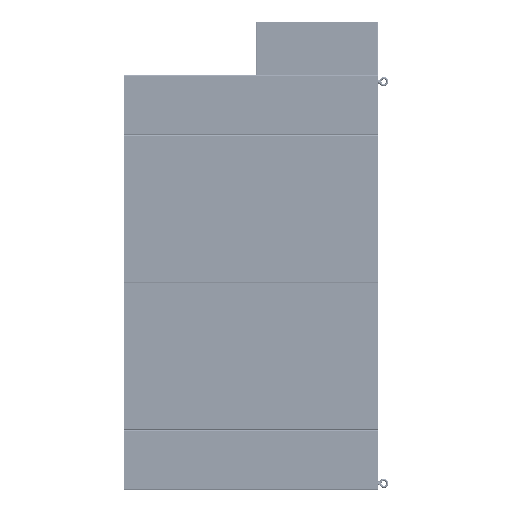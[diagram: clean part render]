
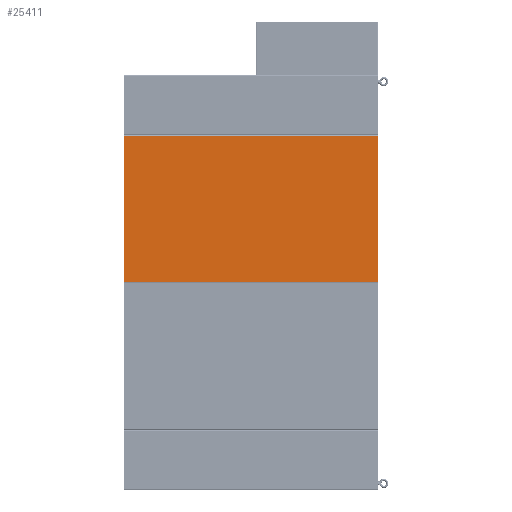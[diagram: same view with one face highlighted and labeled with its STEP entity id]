
A CAD part, left-side view. The second image highlights one B-rep face of the part: STEP entity #25411.
In plain terms, the highlighted planar face has unit normal (-1, 0, 0) as drawn and (0, 0, -1) by its records, which use the part's own axes.
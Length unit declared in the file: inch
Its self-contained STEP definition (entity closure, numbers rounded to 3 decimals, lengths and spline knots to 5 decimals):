
#24947=DIRECTION('',(0.,-1.,0.));
#24948=VECTOR('',#24947,71.75);
#24949=CARTESIAN_POINT('',(-20.625,0.,-0.125));
#24950=LINE('',#24949,#24948);
#24962=DIRECTION('',(1.,0.,0.));
#24963=VECTOR('',#24962,41.25);
#24964=CARTESIAN_POINT('',(-20.625,-71.75,-0.125));
#24965=LINE('',#24964,#24963);
#24969=DIRECTION('',(-1.,0.,0.));
#24970=VECTOR('',#24969,41.25);
#24971=CARTESIAN_POINT('',(20.625,0.,-0.125));
#24972=LINE('',#24971,#24970);
#25005=DIRECTION('',(0.,1.,0.));
#25006=VECTOR('',#25005,71.75);
#25007=CARTESIAN_POINT('',(20.625,-71.75,-0.125));
#25008=LINE('',#25007,#25006);
#25212=CARTESIAN_POINT('',(20.625,0.,-0.125));
#25213=VERTEX_POINT('',#25212);
#25214=CARTESIAN_POINT('',(20.625,-71.75,-0.125));
#25215=VERTEX_POINT('',#25214);
#25228=CARTESIAN_POINT('',(-20.625,-71.75,-0.125));
#25229=VERTEX_POINT('',#25228);
#25230=CARTESIAN_POINT('',(-20.625,0.,-0.125));
#25231=VERTEX_POINT('',#25230);
#25397=CARTESIAN_POINT('',(0.,0.,-0.125));
#25398=DIRECTION('',(0.,0.,1.));
#25399=DIRECTION('',(1.,0.,0.));
#25400=AXIS2_PLACEMENT_3D('',#25397,#25398,#25399);
#25401=PLANE('',#25400);
#25402=ORIENTED_EDGE('',*,*,#25390,.T.);
#25404=ORIENTED_EDGE('',*,*,#25403,.T.);
#25406=ORIENTED_EDGE('',*,*,#25405,.T.);
#25408=ORIENTED_EDGE('',*,*,#25407,.T.);
#25409=EDGE_LOOP('',(#25402,#25404,#25406,#25408));
#25410=FACE_OUTER_BOUND('',#25409,.F.);
#25390=EDGE_CURVE('',#25231,#25229,#24950,.T.);
#25403=EDGE_CURVE('',#25229,#25215,#24965,.T.);
#25405=EDGE_CURVE('',#25215,#25213,#25008,.T.);
#25407=EDGE_CURVE('',#25213,#25231,#24972,.T.);
#25411=ADVANCED_FACE('',(#25410),#25401,.F.);
